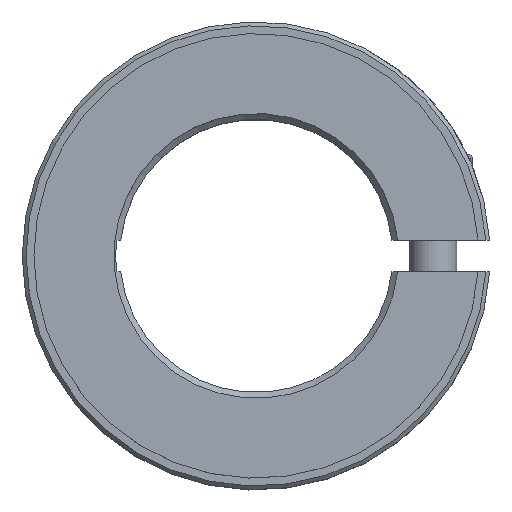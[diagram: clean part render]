
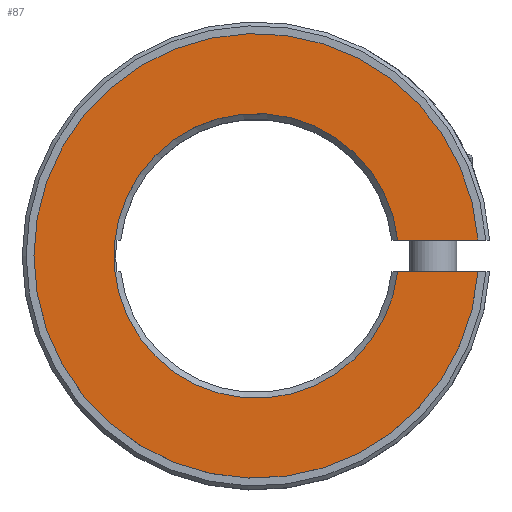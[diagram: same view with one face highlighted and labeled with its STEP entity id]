
A CAD part, top view. The second image highlights one B-rep face of the part: STEP entity #87.
In plain terms, the highlighted planar face has unit normal (0, 0, 1).
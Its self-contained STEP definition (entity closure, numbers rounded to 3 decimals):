
#87 = ADVANCED_FACE( '', ( #138 ), #139, .T. );
#138 = FACE_OUTER_BOUND( '', #221, .T. );
#139 = PLANE( '', #222 );
#221 = EDGE_LOOP( '', ( #379, #380, #381, #382 ) );
#222 = AXIS2_PLACEMENT_3D( '', #383, #384, #385 );
#379 = ORIENTED_EDGE( '', *, *, #599, .F. );
#380 = ORIENTED_EDGE( '', *, *, #587, .T. );
#381 = ORIENTED_EDGE( '', *, *, #600, .T. );
#382 = ORIENTED_EDGE( '', *, *, #592, .T. );
#383 = CARTESIAN_POINT( '', ( 0., 28.5, 10.5 ) );
#384 = DIRECTION( '', ( 0., 0., 1. ) );
#385 = DIRECTION( '', ( 1., 0., 0. ) );
#587 = EDGE_CURVE( '', #701, #699, #702, .T. );
#592 = EDGE_CURVE( '', #710, #708, #711, .T. );
#599 = EDGE_CURVE( '', #701, #708, #720, .T. );
#600 = EDGE_CURVE( '', #699, #710, #721, .T. );
#699 = VERTEX_POINT( '', #964 );
#701 = VERTEX_POINT( '', #967 );
#702 = LINE( '', #968, #969 );
#708 = VERTEX_POINT( '', #978 );
#710 = VERTEX_POINT( '', #981 );
#711 = LINE( '', #982, #983 );
#720 = CIRCLE( '', #997, 28.5 );
#721 = CIRCLE( '', #998, 18.25 );
#964 = CARTESIAN_POINT( '', ( 18.137, -2.03, 10.5 ) );
#967 = CARTESIAN_POINT( '', ( 28.428, -2.03, 10.5 ) );
#968 = CARTESIAN_POINT( '', ( 0., -2.03, 10.5 ) );
#969 = VECTOR( '', #1134, 1000. );
#978 = CARTESIAN_POINT( '', ( 28.428, 2.03, 10.5 ) );
#981 = CARTESIAN_POINT( '', ( 18.137, 2.03, 10.5 ) );
#982 = CARTESIAN_POINT( '', ( 0., 2.03, 10.5 ) );
#983 = VECTOR( '', #1139, 1000. );
#997 = AXIS2_PLACEMENT_3D( '', #1151, #1152, #1153 );
#998 = AXIS2_PLACEMENT_3D( '', #1154, #1155, #1156 );
#1134 = DIRECTION( '', ( -1., 0., 0. ) );
#1139 = DIRECTION( '', ( 1., 0., 0. ) );
#1151 = CARTESIAN_POINT( '', ( 0., 0., 10.5 ) );
#1152 = DIRECTION( '', ( 0., 0., -1. ) );
#1153 = DIRECTION( '', ( -1., 0., 0. ) );
#1154 = CARTESIAN_POINT( '', ( 0., 0., 10.5 ) );
#1155 = DIRECTION( '', ( 0., 0., -1. ) );
#1156 = DIRECTION( '', ( -1., 0., 0. ) );
